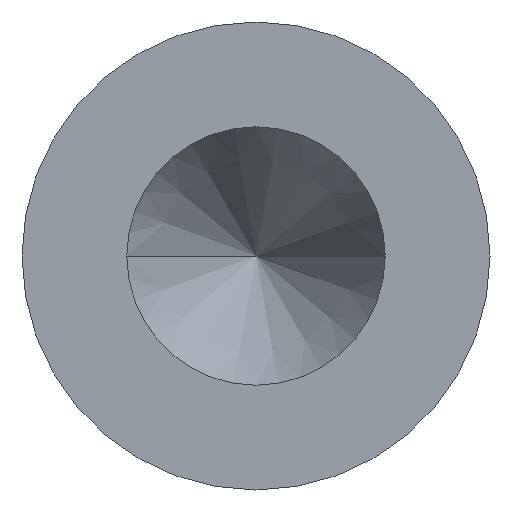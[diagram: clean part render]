
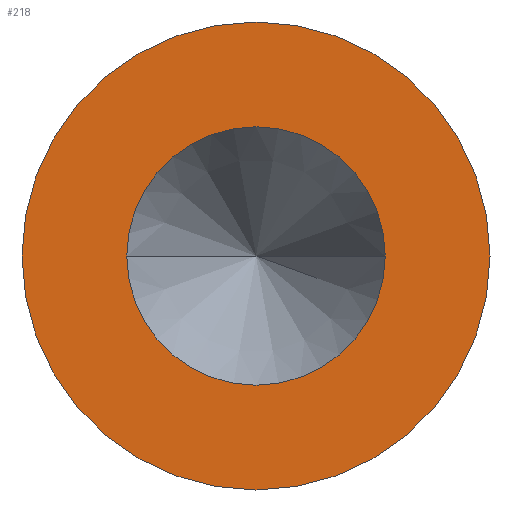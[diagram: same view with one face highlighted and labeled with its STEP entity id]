
A CAD part, left-side view. The second image highlights one B-rep face of the part: STEP entity #218.
In plain terms, the highlighted planar face has unit normal (-1, 0, 0).
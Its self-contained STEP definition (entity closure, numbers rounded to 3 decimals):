
#47=CARTESIAN_POINT('',(0.,0.,0.));
#48=DIRECTION('',(-1.,0.,0.));
#49=DIRECTION('',(0.,1.,0.));
#50=AXIS2_PLACEMENT_3D('',#47,#48,#49);
#52=CARTESIAN_POINT('',(0.,0.,0.));
#53=DIRECTION('',(1.,0.,0.));
#54=DIRECTION('',(0.,1.,0.));
#55=AXIS2_PLACEMENT_3D('',#52,#53,#54);
#57=CARTESIAN_POINT('',(0.,0.,0.));
#58=DIRECTION('',(1.,0.,0.));
#59=DIRECTION('',(0.,1.,0.));
#60=AXIS2_PLACEMENT_3D('',#57,#58,#59);
#70=CARTESIAN_POINT('',(0.,0.,0.));
#71=DIRECTION('',(-1.,0.,0.));
#72=DIRECTION('',(0.,1.,0.));
#73=AXIS2_PLACEMENT_3D('',#70,#71,#72);
#98=CARTESIAN_POINT('',(0.,1.195,0.));
#100=VERTEX_POINT('',#98);
#101=CARTESIAN_POINT('',(0.,0.66,0.));
#103=VERTEX_POINT('',#101);
#112=CARTESIAN_POINT('',(0.,-1.195,0.));
#114=VERTEX_POINT('',#112);
#115=CARTESIAN_POINT('',(0.,-0.66,0.));
#117=VERTEX_POINT('',#115);
#203=CARTESIAN_POINT('',(0.,0.,0.));
#204=DIRECTION('',(1.,0.,0.));
#205=DIRECTION('',(0.,-1.,0.));
#206=AXIS2_PLACEMENT_3D('',#203,#204,#205);
#207=PLANE('',#206);
#208=ORIENTED_EDGE('',*,*,#196,.F.);
#209=ORIENTED_EDGE('',*,*,#185,.T.);
#210=EDGE_LOOP('',(#208,#209));
#211=FACE_OUTER_BOUND('',#210,.F.);
#213=ORIENTED_EDGE('',*,*,#212,.F.);
#215=ORIENTED_EDGE('',*,*,#214,.T.);
#216=EDGE_LOOP('',(#213,#215));
#217=FACE_BOUND('',#216,.F.);
#218=ADVANCED_FACE('',(#211,#217),#207,.F.);
#51=CIRCLE('',#50,1.195);
#56=CIRCLE('',#55,1.195);
#61=CIRCLE('',#60,0.66);
#74=CIRCLE('',#73,0.66);
#185=EDGE_CURVE('',#100,#114,#56,.T.);
#196=EDGE_CURVE('',#100,#114,#51,.T.);
#212=EDGE_CURVE('',#103,#117,#61,.T.);
#214=EDGE_CURVE('',#103,#117,#74,.T.);
